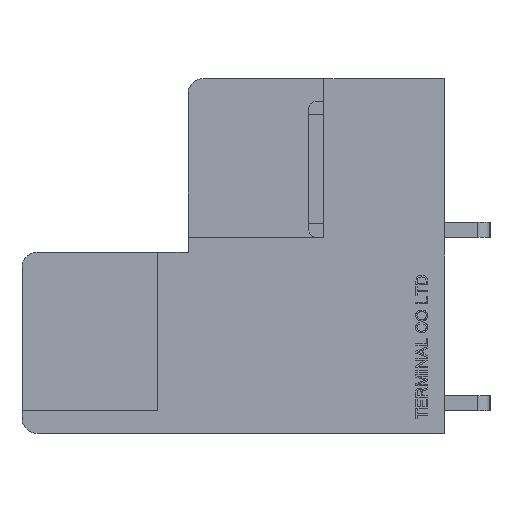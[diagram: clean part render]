
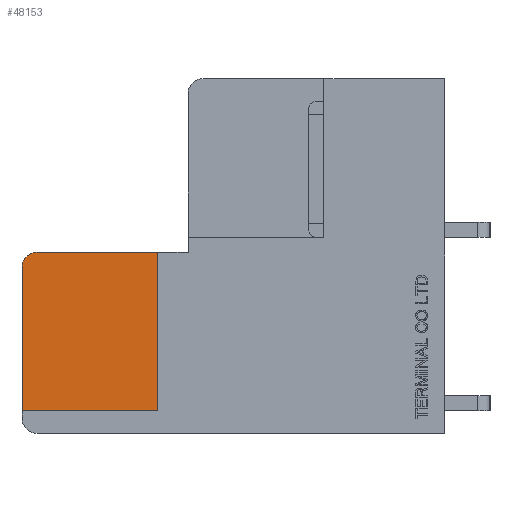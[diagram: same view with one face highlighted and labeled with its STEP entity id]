
A CAD part, left-side view. The second image highlights one B-rep face of the part: STEP entity #48153.
In plain terms, the highlighted planar face has unit normal (-1, 0, 0).
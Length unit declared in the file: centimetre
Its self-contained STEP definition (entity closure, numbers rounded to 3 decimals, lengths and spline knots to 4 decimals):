
#578=CIRCLE('',#82292,0.1);
#2826=VERTEX_POINT('',#63840);
#2827=VERTEX_POINT('',#63841);
#2830=VERTEX_POINT('',#63849);
#2832=VERTEX_POINT('',#63855);
#2833=VERTEX_POINT('',#63857);
#7879=VECTOR('',#53510,1.);
#7883=VECTOR('',#53515,1.);
#7886=VECTOR('',#53519,1.);
#7887=VECTOR('',#53522,1.);
#13592=LINE('',#63839,#7879);
#13596=LINE('',#63848,#7883);
#13599=LINE('',#63854,#7886);
#13600=LINE('',#63858,#7887);
#19403=EDGE_CURVE('',#2826,#2827,#13592,.T.);
#19407=EDGE_CURVE('',#2830,#2826,#13596,.T.);
#19410=EDGE_CURVE('',#2832,#2827,#13599,.T.);
#19411=EDGE_CURVE('',#2833,#2832,#578,.T.);
#19412=EDGE_CURVE('',#2830,#2833,#13600,.T.);
#27270=ORIENTED_EDGE('',*,*,#19407,.T.);
#27271=ORIENTED_EDGE('',*,*,#19403,.T.);
#27272=ORIENTED_EDGE('',*,*,#19410,.F.);
#27273=ORIENTED_EDGE('',*,*,#19411,.F.);
#27274=ORIENTED_EDGE('',*,*,#19412,.F.);
#41859=EDGE_LOOP('',(#27270,#27271,#27272,#27273,#27274));
#45008=FACE_BOUND('',#41859,.T.);
#48153=ADVANCED_FACE('',(#45008),#51010,.F.);
#51010=PLANE('',#82291);
#53510=DIRECTION('',(0.,0.,1.));
#53515=DIRECTION('',(0.,-1.,0.));
#53518=DIRECTION('',(1.,0.,0.));
#53519=DIRECTION('',(0.,-1.,0.));
#53520=DIRECTION('',(1.,0.,0.));
#53521=DIRECTION('',(0.,0.,-0.1));
#53522=DIRECTION('',(0.,0.,1.));
#63839=CARTESIAN_POINT('',(-2.86,-0.145,0.0375));
#63840=CARTESIAN_POINT('',(-2.86,-0.145,-0.45));
#63841=CARTESIAN_POINT('',(-2.86,-0.145,0.6));
#63848=CARTESIAN_POINT('',(-2.86,-0.1777,-0.45));
#63849=CARTESIAN_POINT('',(-2.86,0.755,-0.45));
#63853=CARTESIAN_POINT('',(-2.86,-0.6604,0.));
#63854=CARTESIAN_POINT('',(-2.86,0.655,0.6));
#63855=CARTESIAN_POINT('',(-2.86,0.655,0.6));
#63856=CARTESIAN_POINT('',(-2.86,0.655,0.5));
#63857=CARTESIAN_POINT('',(-2.86,0.755,0.5));
#63858=CARTESIAN_POINT('',(-2.86,0.755,-0.5));
#82291=AXIS2_PLACEMENT_3D('',#63853,#53518,$);
#82292=AXIS2_PLACEMENT_3D('',#63856,#53520,#53521);
